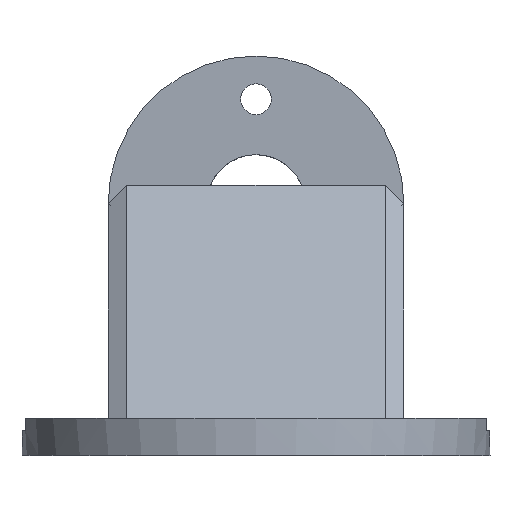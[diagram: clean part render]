
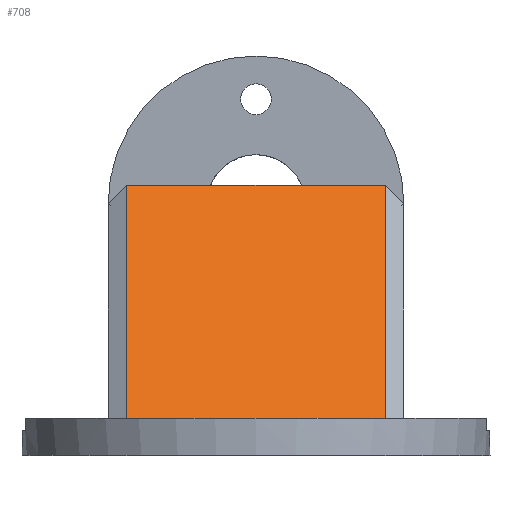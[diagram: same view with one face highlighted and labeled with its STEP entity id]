
A CAD part, top view. The second image highlights one B-rep face of the part: STEP entity #708.
In plain terms, the highlighted planar face has unit normal (0, 0.62, 0.785).
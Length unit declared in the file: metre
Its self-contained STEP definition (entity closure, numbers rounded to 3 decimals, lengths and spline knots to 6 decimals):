
#30=PLANE('',#793);
#56=LINE('',#1068,#120);
#64=LINE('',#1102,#128);
#96=LINE('',#1187,#160);
#97=LINE('',#1188,#161);
#120=VECTOR('',#851,1.);
#128=VECTOR('',#883,1.);
#160=VECTOR('',#975,1.);
#161=VECTOR('',#976,1.);
#297=ORIENTED_EDGE('',*,*,#388,.T.);
#298=ORIENTED_EDGE('',*,*,#446,.F.);
#299=ORIENTED_EDGE('',*,*,#403,.F.);
#300=ORIENTED_EDGE('',*,*,#447,.T.);
#388=EDGE_CURVE('',#483,#482,#56,.T.);
#403=EDGE_CURVE('',#496,#497,#64,.T.);
#446=EDGE_CURVE('',#497,#482,#96,.T.);
#447=EDGE_CURVE('',#496,#483,#97,.T.);
#482=VERTEX_POINT('',#1067);
#483=VERTEX_POINT('',#1069);
#496=VERTEX_POINT('',#1101);
#497=VERTEX_POINT('',#1103);
#593=EDGE_LOOP('',(#297,#298,#299,#300));
#653=FACE_BOUND('',#593,.T.);
#708=ADVANCED_FACE('',(#653),#30,.F.);
#793=AXIS2_PLACEMENT_3D('',#1186,#973,#974);
#851=DIRECTION('',(1.,0.,0.));
#883=DIRECTION('',(1.,0.,0.));
#973=DIRECTION('',(0.,-0.62,-0.785));
#974=DIRECTION('',(0.,0.785,-0.62));
#975=DIRECTION('',(0.,-0.785,0.62));
#976=DIRECTION('',(0.,-0.785,0.62));
#1067=CARTESIAN_POINT('',(0.0105,0.0015,0.019));
#1068=CARTESIAN_POINT('',(-0.00525,0.0015,0.019));
#1069=CARTESIAN_POINT('',(-0.0105,0.0015,0.019));
#1101=CARTESIAN_POINT('',(-0.0105,0.0205,0.004));
#1102=CARTESIAN_POINT('',(-0.00525,0.0205,0.004));
#1103=CARTESIAN_POINT('',(0.0105,0.0205,0.004));
#1186=CARTESIAN_POINT('',(0.,0.009817,0.012434));
#1187=CARTESIAN_POINT('',(0.0105,0.0205,0.004));
#1188=CARTESIAN_POINT('',(-0.0105,0.0205,0.004));
